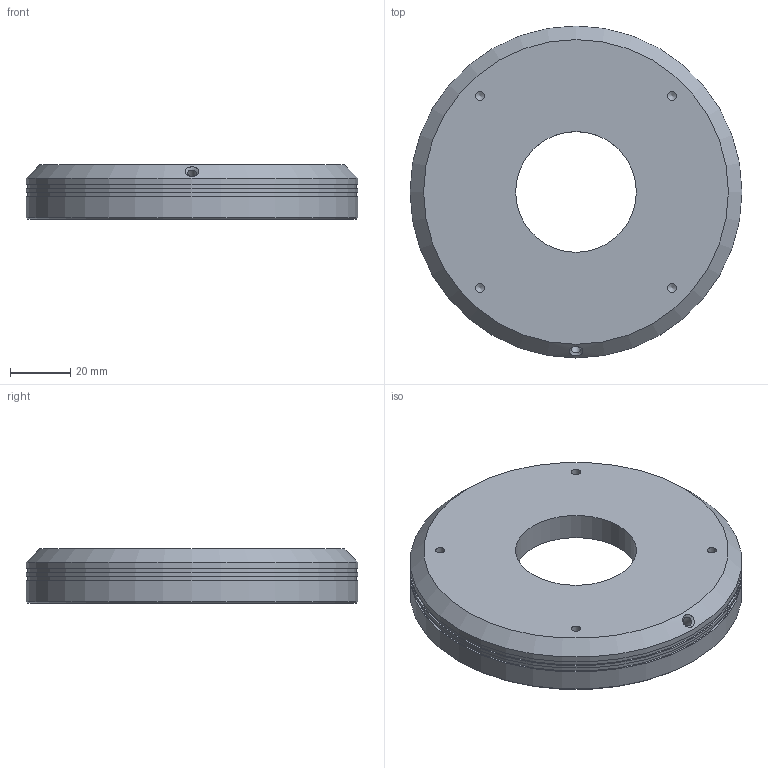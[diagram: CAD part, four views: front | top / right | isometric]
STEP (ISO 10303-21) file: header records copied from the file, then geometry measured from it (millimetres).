
FILE_DESCRIPTION((''),'2;1');
FILE_NAME('D:\上海创波-20181114\2-三维图纸\1-常用光源\WLDR系列\WLDR1系列-xxAGxx\WLDR-15AG110-.stp','2020-02-06T21:26:45',('Administrator'),(''),'Autodesk Inventor 2010','Autodesk Inventor 2010','');
FILE_SCHEMA(('AUTOMOTIVE_DESIGN { 1 0 10303 214 1 1 1 1 }'));
Length unit declared in the file: millimetre
Products named in the file (1): 零件3
Bounding box: 110 x 110 x 18 mm (x, y, z)
Volume: 62577.9 mm3; surface area: 55746.3 mm2
Topology: 40 solids, 40 shells, 1358 faces, 3431 edges, 2116 vertices
Faces by surface type: plane 563, cylinder 525, sphere 252, cone 9, bspline 9
Full cylindrical faces by diameter (mm): 1 x7, 3 x253, 40 x1, 43 x1, 44 x1, 47 x1, 101 x1, 103 x1, 105 x1, 108 x1, 109 x2, 110 x3
Entity records: 40265 total; most frequent: CARTESIAN_POINT 12720, DIRECTION 5437, ORIENTED_EDGE 4672, EDGE_CURVE 2336, AXIS2_PLACEMENT_3D 2195, EDGE_LOOP 1885, VERTEX_POINT 1578, STYLED_ITEM 1398
